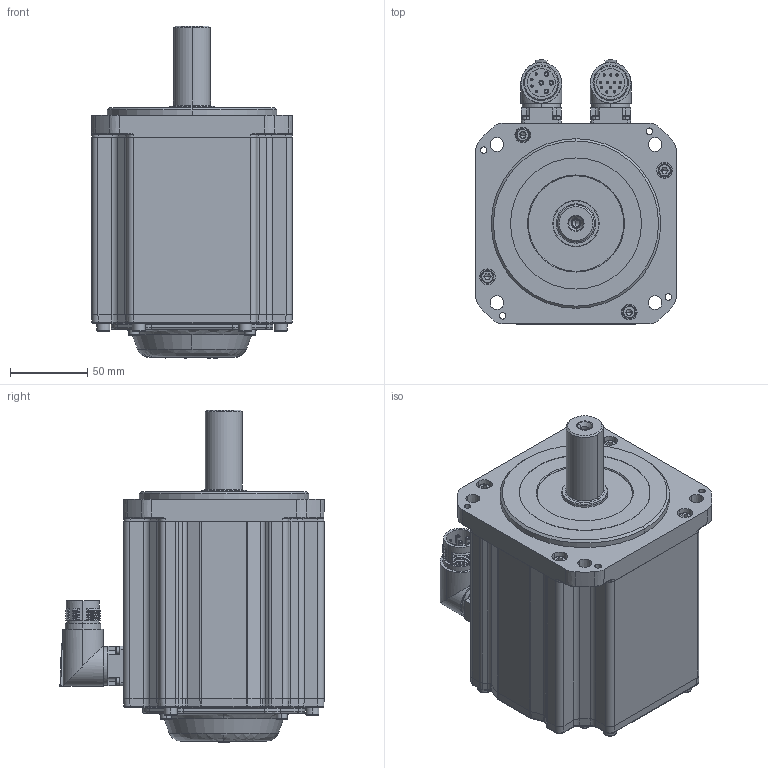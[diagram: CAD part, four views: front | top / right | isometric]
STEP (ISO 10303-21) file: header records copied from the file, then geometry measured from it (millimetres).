
FILE_DESCRIPTION (( 'STEP AP203' ), '1' );
FILE_NAME ('MC20-130-3M20-N152-0¡õPL-NNNN.STEP', '2025-07-29T15:05:55', ( '' ), ( '' ), 'SwSTEP 2.0', 'SolidWorks 2014', '' );
FILE_SCHEMA (( 'CONFIG_CONTROL_DESIGN' ));
Products named in the file (1): MC20-130-3M20-N152-0¡õPL-NNNN
Bounding box: 130 x 171.35 x 215.3 mm (x, y, z)
Volume: 2299126.9 mm3; surface area: 265246.7 mm2
Topology: 28 solids, 28 shells, 2022 faces, 4794 edges, 2857 vertices
Faces by surface type: plane 733, cylinder 567, cone 358, bspline 204, torus 148, sphere 12
Entity records: 62107 total; most frequent: CARTESIAN_POINT 16808, DIRECTION 9523, ORIENTED_EDGE 9364, EDGE_CURVE 4682, AXIS2_PLACEMENT_3D 3694, VERTEX_POINT 2857, EDGE_LOOP 2269, LINE 2135
